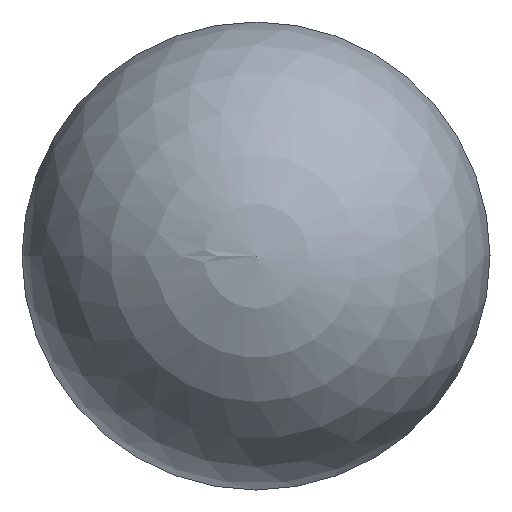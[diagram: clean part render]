
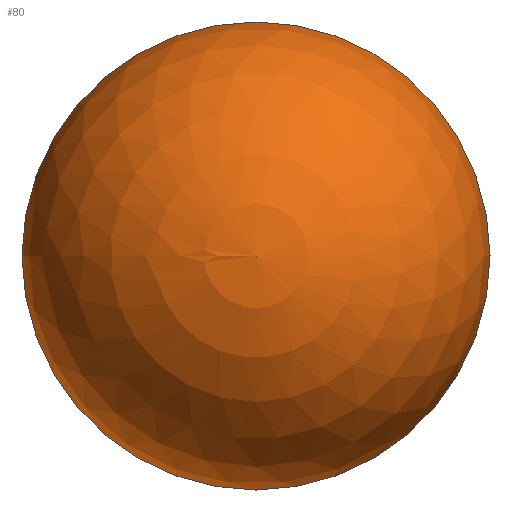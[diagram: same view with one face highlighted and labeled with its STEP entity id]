
A CAD part, left-side view. The second image highlights one B-rep face of the part: STEP entity #80.
In plain terms, the highlighted spherical face has radius 1.8 mm.
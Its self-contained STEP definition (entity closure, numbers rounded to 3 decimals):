
#80 = ADVANCED_FACE( '', ( #98, #99 ), #100, .T. );
#98 = FACE_BOUND( '', #118, .T. );
#99 = FACE_OUTER_BOUND( '', #119, .T. );
#100 = SPHERICAL_SURFACE( '', #120, 1.8 );
#118 = VERTEX_LOOP( '', #148 );
#119 = EDGE_LOOP( '', ( #149 ) );
#120 = AXIS2_PLACEMENT_3D( '', #150, #151, #152 );
#148 = VERTEX_POINT( '', #163 );
#149 = ORIENTED_EDGE( '', *, *, #162, .F. );
#150 = CARTESIAN_POINT( '', ( 1.8, 0., 0. ) );
#151 = DIRECTION( '', ( 1., 0., 0. ) );
#152 = DIRECTION( '', ( 0., 1., 0. ) );
#162 = EDGE_CURVE( '', #174, #174, #175, .T. );
#163 = CARTESIAN_POINT( '', ( 0., 0., 0. ) );
#174 = VERTEX_POINT( '', #186 );
#175 = CIRCLE( '', #187, 1.8 );
#186 = CARTESIAN_POINT( '', ( 1.8, 0., -1.8 ) );
#187 = AXIS2_PLACEMENT_3D( '', #203, #204, #205 );
#203 = CARTESIAN_POINT( '', ( 1.8, 0., 0. ) );
#204 = DIRECTION( '', ( 1., 0., 0. ) );
#205 = DIRECTION( '', ( 0., 0., -1. ) );
